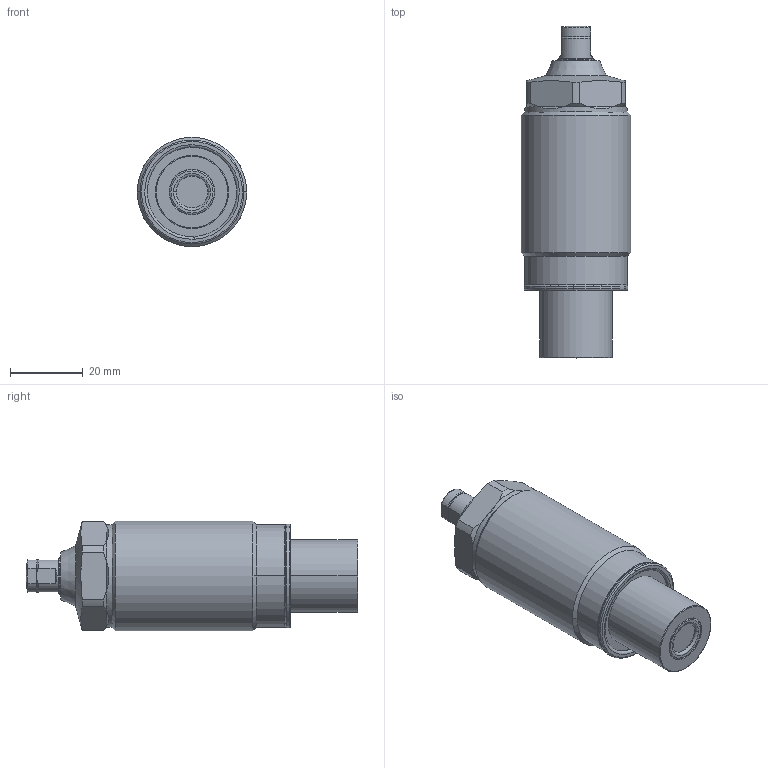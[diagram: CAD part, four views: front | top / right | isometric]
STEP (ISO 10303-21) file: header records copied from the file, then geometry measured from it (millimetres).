
FILE_DESCRIPTION(/* description */ (''),/* implementation_level */ '2;1');
FILE_NAME(/* name */ 'TNL30-Q.stp',/* time_stamp */ '2025-01-09T10:19:49+08:00',/* author */ (''),/* organization */ (''),/* preprocessor_version */ 'ST-DEVELOPER v16.7',/* originating_system */ 'SIEMENS PLM Software NX 12.0',/* authorisation */ '');
FILE_SCHEMA (('AUTOMOTIVE_DESIGN { 1 0 10303 214 3 1 1 1 }'));
Length unit declared in the file: millimetre
Products named in the file (6): TNL30-Q-5; TNL30-Q-4; TNL30-Q-3; TNL30-Q-2; TNL30-Q-1; TNL30-Q_stp
Assembly tree (5 placements, depth 2):
  TNL30-Q_stp
    TNL30-Q-1
    TNL30-Q-2
    TNL30-Q-3
    TNL30-Q-4
    TNL30-Q-5
Bounding box: 30 x 91 x 30 mm (x, y, z)
Volume: 47163.9 mm3; surface area: 9759 mm2
Topology: 5 solids, 5 shells, 131 faces, 283 edges, 169 vertices
Faces by surface type: torus 38, cylinder 38, plane 34, cone 19, sphere 2
Full cylindrical faces by diameter (mm): 28.2 x1, 30 x1
Entity records: 3904 total; most frequent: CARTESIAN_POINT 854, DIRECTION 690, ORIENTED_EDGE 556, AXIS2_PLACEMENT_3D 309, EDGE_CURVE 278, VERTEX_POINT 169, CIRCLE 166, EDGE_LOOP 147
